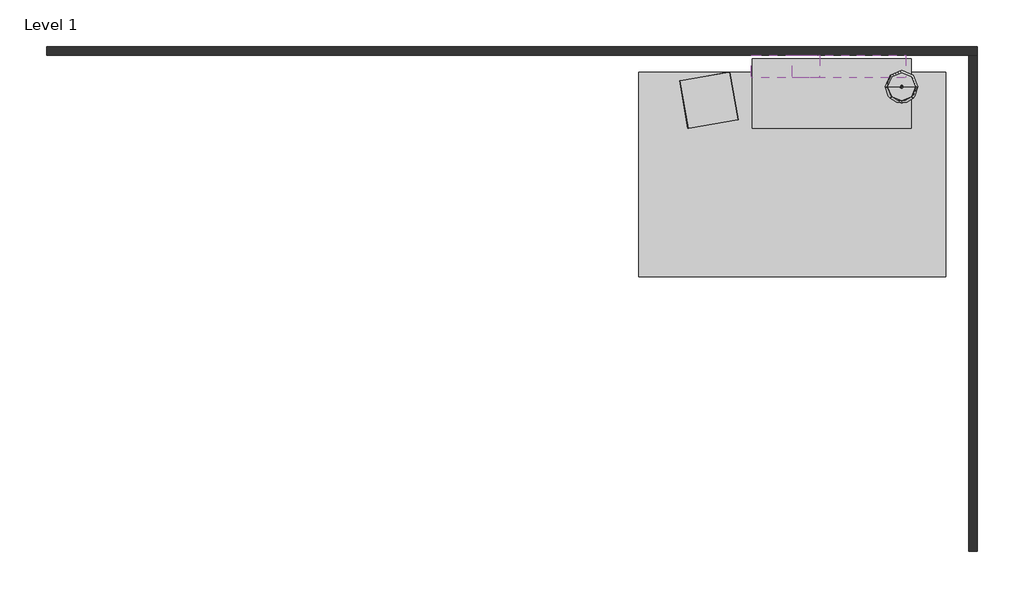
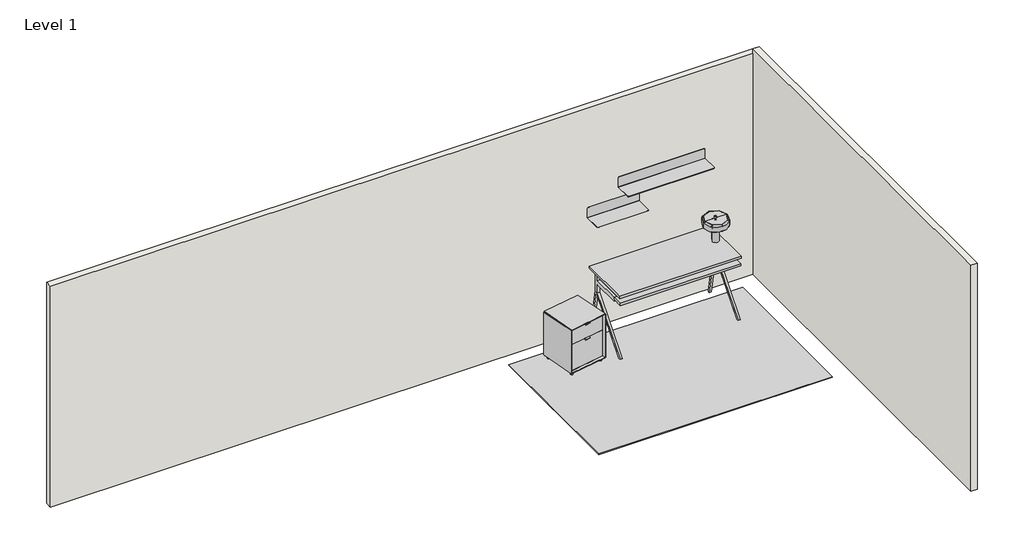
# One storey, incomplete: 6 furniture elements, 2 walls.
"""IFC4 building model written with IfcOpenShell, lengths in millimetres."""

from ifc_helpers import new_model, si_unit, origin, place, context, project, spatial, faceted_brep, transform, mapped, element, save
from components import furniture_6_x_9_silver_grey_638f6850, blu_dot_desk_51_desk_desk_517319fa, file_2879ee58, large_eedbdc1d, small_f59df922, table_88db3fc4

model = new_model("IFC4")

# Units and contexts
model_context = context("Model", 3, world=origin())
ifc_project = project(units=[si_unit("LENGTHUNIT", "METRE", prefix="MILLI")], contexts=[model_context])

# Site, building, storey
site = spatial("IfcSite", under=ifc_project)
building = spatial("IfcBuilding", under=site)
storey = spatial("IfcBuildingStorey", under=building, Name="Level 1", Elevation=0.0)

# Furniture
placement = place(None, origin())
furniture_6_x_9_silver_grey_shape = furniture_6_x_9_silver_grey_638f6850(model_context)
element("IfcFurniture", 1, ObjectType="Blu Dot - Pim Pim - Rug : 6' x 9' / Silver Grey", at=placement, inside=storey, context=model_context, shape_type="MappedRepresentation", body=[
    mapped(furniture_6_x_9_silver_grey_shape, transform((-35386.7556377, -437824.5264725, 0.0), x_axis=(1.0, 0.0, 0.0), y_axis=(0.0, 1.0, 0.0), z_axis=(0.0, 0.0, 1.0))),
])
blu_dot_desk_51_desk_desk_shape = blu_dot_desk_51_desk_desk_517319fa(model_context)
element("IfcFurniture", 2, ObjectType="Blu Dot - Desk 51 - Desk : Desk", at=placement, inside=storey, context=model_context, shape_type="MappedRepresentation", body=[
    mapped(blu_dot_desk_51_desk_desk_shape, transform((-35743.8659719, -436789.2222596, 0.0), x_axis=(1.0, 0.0, 0.0), y_axis=(0.0, 1.0, 0.0), z_axis=(0.0, 0.0, 1.0))),
])
file_shape = file_2879ee58(model_context)
element("IfcFurniture", 3, ObjectType="Blu Dot - Dang - File Pedestal : File", at=placement, inside=storey, context=model_context, shape_type="MappedRepresentation", body=[
    mapped(file_shape, transform((-36393.5353578, -436989.2298394, 0.0), x_axis=(0.984807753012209, 0.1736481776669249, 0.0), y_axis=(-0.1736481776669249, 0.984807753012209, 0.0), z_axis=(0.0, 0.0, 1.0))),
])
large_shape = large_eedbdc1d(model_context)
element("IfcFurniture", 4, ObjectType="Blu Dot - Welf - Wall Shelf : Large", at=placement, inside=storey, context=model_context, shape_type="MappedRepresentation", body=[
    mapped(large_shape, transform((-34878.4087833, -436859.6945426, 1638.3), x_axis=(1.0, 0.0, 0.0), y_axis=(0.0, 1.0, 0.0), z_axis=(0.0, 0.0, 1.0))),
])
small_shape = small_f59df922(model_context)
element("IfcFurniture", 5, ObjectType="Blu Dot - Welf - Wall Shelf : Small", at=placement, inside=storey, context=model_context, shape_type="MappedRepresentation", body=[
    mapped(small_shape, transform((-35446.3031896, -436859.6945426, 1384.3), x_axis=(1.0, 0.0, 0.0), y_axis=(0.0, 1.0, 0.0), z_axis=(0.0, 0.0, 1.0))),
])
table_shape = table_88db3fc4(model_context)
element("IfcFurniture", 6, ObjectType="Blu Dot - Punk - Lamp : Table", at=placement, inside=storey, context=model_context, shape_type="MappedRepresentation", body=[
    mapped(table_shape, transform((-34408.5755253, -437041.0039897, 787.4), x_axis=(1.0, 0.0, 0.0), y_axis=(0.0, 1.0, 0.0), z_axis=(0.0, 0.0, 1.0))),
])

# Walls
element("IfcWall", 7, ObjectType="3in Wall", at=placement, inside=storey, context=model_context, shape_type="Brep", body=[
    faceted_brep([(-42053.9681608, -436758.0945426, 0.0), (-33806.5620971, -436758.0945426, 0.0), (-33730.3620971, -436758.0945426, 0.0), (-33730.3620971, -436758.0945426, 2742.3455232), (-42053.9681608, -436758.0945426, 2742.3455232), (-42053.9681608, -436681.8945426, 0.0), (-42053.9681608, -436681.8945426, 2742.3455232), (-33730.3620971, -436681.8945426, 2742.3455232), (-33730.3620971, -436681.8945426, 0.0)], [[[0, 1, 2, 3, 4]], [[5, 6, 7, 8]], [[2, 1, 0, 5, 8]], [[4, 3, 7, 6]], [[0, 4, 6, 5]], [[3, 2, 8, 7]]]),
])
element("IfcWall", 8, ObjectType="3in Wall", at=placement, inside=storey, context=model_context, shape_type="Brep", body=[
    faceted_brep([(-33806.5620971, -436758.0945426, 0.0), (-33806.5620971, -441193.6104953, 0.0), (-33806.5620971, -441193.6104953, 2802.0435983), (-33806.5620971, -436758.0945426, 2802.0435983), (-33730.3620971, -436758.0945426, 0.0), (-33730.3620971, -436758.0945426, 2742.3455232), (-33730.3620971, -436758.0945426, 2802.0435983), (-33730.3620971, -441193.6104953, 2802.0435983), (-33730.3620971, -441193.6104953, 0.0)], [[[0, 1, 2, 3]], [[4, 5, 6, 7, 8]], [[1, 0, 4, 8]], [[2, 1, 8, 7]], [[3, 2, 7, 6]], [[0, 3, 6, 5, 4]]]),
])

save(model, "model.ifc")
